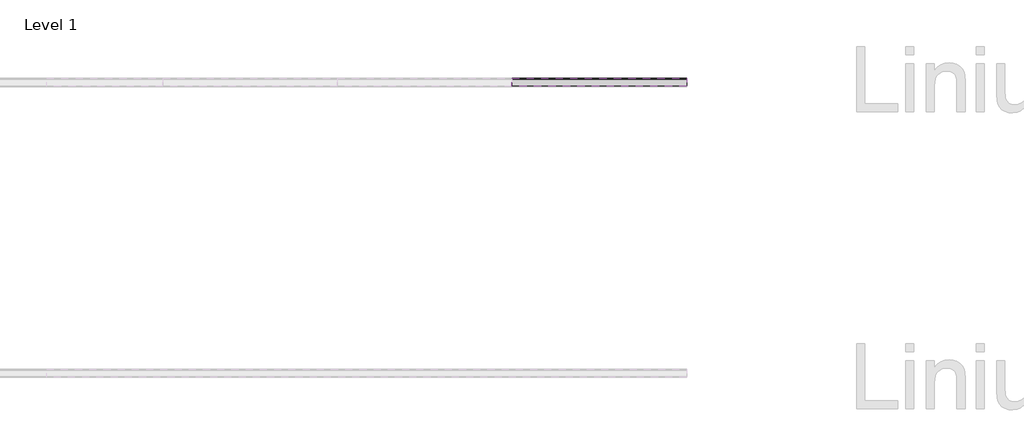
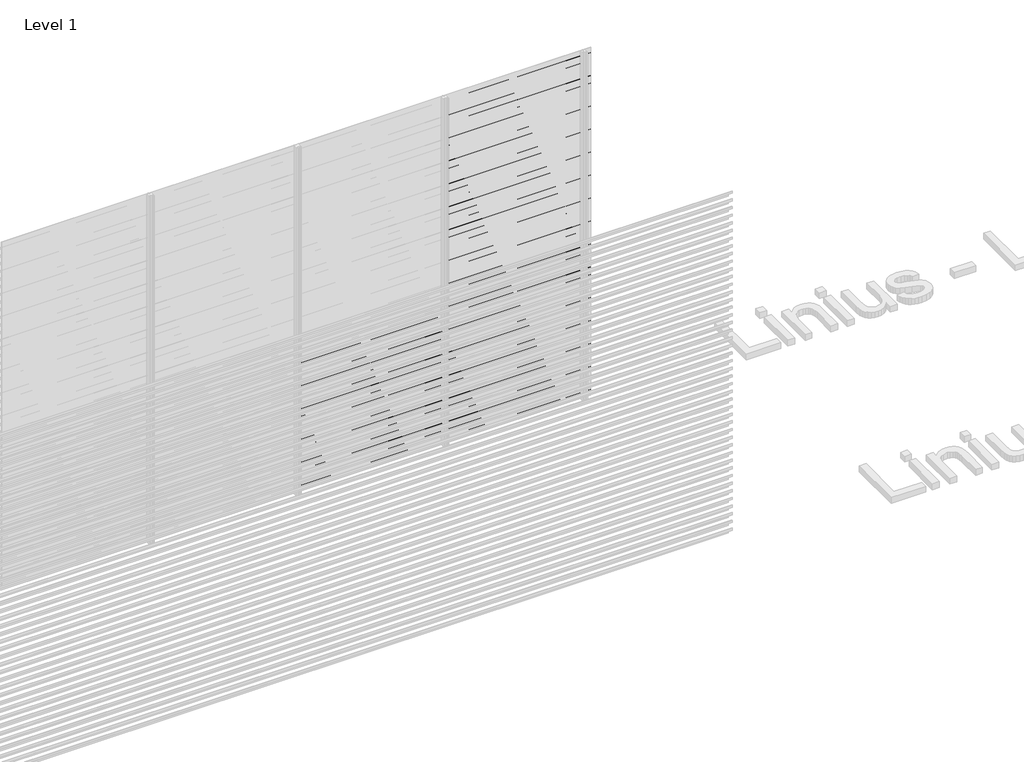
# One storey, part 88 of 540: 62 proxies.
"""IFC4 building model written with IfcOpenShell, lengths in millimetres."""

import ifcopenshell
import ifcopenshell.guid

model = None  # the IFC model being written
_history = None  # IfcOwnerHistory: only IFC2X3 demands one
_inside = {}  # id of a spatial element -> (the spatial element, [elements in it])
_under = {}  # id of a project, library or spatial element -> (it, [spatial elements below it])
_declared = {}  # id of a project -> (the project, [libraries it declares])
_typed = {}  # id of a type object -> (the type object, [elements of that type])
_made_of = {}  # id of a material, layer set ... -> (it, [elements and type objects made of it])


def new_model(schema):
    """Start an empty IFC model of exactly this schema.

    Asked for "IFC4X3", IfcOpenShell would pick the latest addendum, in which some entities
    have other attributes; the version numbers below select the first issue.
    IFC2X3 requires an IfcOwnerHistory on every rooted entity: one is made here for all.
    """
    global model, _history
    if schema == "IFC4X3":
        model = ifcopenshell.file(schema_version=(4, 3, 0, 0))
    else:
        model = ifcopenshell.file(schema=schema)
    _inside.clear()
    _under.clear()
    _declared.clear()
    _typed.clear()
    _made_of.clear()
    _history = None
    if model.schema == "IFC2X3":
        org = make("IfcOrganization", Name="unknown")
        user = make(
            "IfcPersonAndOrganization",
            ThePerson=make("IfcPerson", FamilyName="unknown"),
            TheOrganization=org,
        )
        app = make(
            "IfcApplication",
            ApplicationDeveloper=org,
            Version="unknown",
            ApplicationFullName="unknown",
            ApplicationIdentifier="unknown",
        )
        _history = make(
            "IfcOwnerHistory",
            OwningUser=user,
            OwningApplication=app,
            ChangeAction="ADDED",
            CreationDate=0,
        )
    return model


def make(cls, **values):
    """One entity of the class cls with the attributes given. An attribute that is None is left unset."""
    return model.create_entity(
        cls, **{name: value for name, value in values.items() if value is not None}
    )


def rooted(cls, **values):
    """An entity with a GlobalId (a new one), such as an element, a storey or a relation."""
    return make(cls, GlobalId=ifcopenshell.guid.new(), OwnerHistory=_history, **values)


def si_unit(unit_type, name, prefix=None):
    """IfcSIUnit, for example si_unit("LENGTHUNIT", "METRE", prefix="MILLI")."""
    return make("IfcSIUnit", UnitType=unit_type, Prefix=prefix, Name=name)


def assignment(units):
    """IfcUnitAssignment: the units of a project."""
    return None if units is None else make("IfcUnitAssignment", Units=units)


def point(xyz):
    """IfcCartesianPoint."""
    return None if xyz is None else make("IfcCartesianPoint", Coordinates=xyz)


def direction(xyz):
    """IfcDirection."""
    return None if xyz is None else make("IfcDirection", DirectionRatios=xyz)


def frame(location, z_axis=None, x_axis=None):
    """IfcAxis2Placement3D, a coordinate frame: its origin and axes. An axis left out is left unset."""
    return make(
        "IfcAxis2Placement3D",
        Location=point(location),
        Axis=direction(z_axis),
        RefDirection=direction(x_axis),
    )


def origin():
    """The frame at (0, 0, 0) with its axes left unset."""
    return frame((0.0, 0.0, 0.0))


def place(relative_to, where):
    """IfcLocalPlacement: puts the frame where relative to a parent placement (None: the world)."""
    return make(
        "IfcLocalPlacement", PlacementRelTo=relative_to, RelativePlacement=where
    )


def context(
    kind, dimensions, precision=None, world=None, true_north=None, identifier=None
):
    """IfcGeometricRepresentationContext, for example the 3D "Model" context."""
    return make(
        "IfcGeometricRepresentationContext",
        ContextIdentifier=identifier,
        ContextType=kind,
        CoordinateSpaceDimension=dimensions,
        Precision=precision,
        WorldCoordinateSystem=world,
        TrueNorth=true_north,
    )


def project(units=None, contexts=None):
    """IfcProject with its units and contexts."""
    return rooted(
        "IfcProject",
        Name="project",
        RepresentationContexts=contexts,
        UnitsInContext=assignment(units),
    )


def spatial(cls, under=None, at=None, **own):
    """A site, building, storey or space (cls), placed at a placement, below another one or the project."""
    s = rooted(cls, ObjectPlacement=at, **own)
    if under is not None:
        _under.setdefault(under.id(), (under, []))[1].append(s)
    return s


def polyline(points):
    """IfcPolyline through the points."""
    return make("IfcPolyline", Points=[point(p) for p in points])


def outline(outer, holes=None, kind="AREA"):
    """IfcArbitraryClosedProfileDef: a profile drawn as a closed curve; with holes, ...WithVoids."""
    if holes is None:
        return make("IfcArbitraryClosedProfileDef", ProfileType=kind, OuterCurve=outer)
    return make(
        "IfcArbitraryProfileDefWithVoids",
        ProfileType=kind,
        OuterCurve=outer,
        InnerCurves=holes,
    )


def extrude(swept, where, along, depth):
    """IfcExtrudedAreaSolid: the profile swept, set in the frame where, extruded along a direction by depth."""
    return make(
        "IfcExtrudedAreaSolid",
        SweptArea=swept,
        Position=where,
        ExtrudedDirection=direction(along),
        Depth=depth,
    )


def shape(context_of_items, identifier, shape_type, items):
    """IfcShapeRepresentation: the items that make up one representation, for example the "Body"."""
    return make(
        "IfcShapeRepresentation",
        ContextOfItems=context_of_items,
        RepresentationIdentifier=identifier,
        RepresentationType=shape_type,
        Items=items,
    )


def made_of(thing, what):
    """Note that an element or type object is made of a material, layer set ...; save() writes the relation."""
    if what is not None:
        _made_of.setdefault(what.id(), (what, []))[1].append(thing)
    return thing


def element(
    cls,
    number,
    at=None,
    inside=None,
    cuts=None,
    type_object=None,
    material=None,
    context=None,
    identifier="Body",
    shape_type=None,
    held_by="IfcProductDefinitionShape",
    body=None,
    shapes=None,
    **own,
):
    """One element of the class cls, such as IfcWall. Its Tag is "e" and its number.

    at: its placement. inside: the storey or other place that contains it. cuts: it is an
    opening in that element (IfcRelVoidsElement). A single representation is given by context,
    identifier, shape_type and body (its items); several are given by shapes. held_by: the class
    of the entity that holds the representations. save() writes the other relations.
    """
    e = rooted(cls, Tag="e%d" % number, ObjectPlacement=at, **own)
    if body is not None:
        shapes = [shape(context, identifier, shape_type, body)]
    if shapes is not None:
        e.Representation = make(held_by, Representations=shapes)
    if inside is not None:
        _inside.setdefault(inside.id(), (inside, []))[1].append(e)
    if cuts is not None:
        rooted(
            "IfcRelVoidsElement", RelatingBuildingElement=cuts, RelatedOpeningElement=e
        )
    if type_object is not None:
        _typed.setdefault(type_object.id(), (type_object, []))[1].append(e)
    return made_of(e, material)


def aggregate(whole, parts):
    """IfcRelAggregates: a whole, such as a stair, and the parts it consists of."""
    return rooted("IfcRelAggregates", RelatingObject=whole, RelatedObjects=parts)


def save(model, path):
    """Write the relations noted so far, then the file.

    IfcRelAggregates (storeys below a building ...), IfcRelContainedInSpatialStructure (elements
    in a storey), IfcRelDefinesByType, IfcRelAssociatesMaterial and IfcRelDeclares: one each for
    every whole, place, type object, material and project.
    """
    for whole, parts in _under.values():
        aggregate(whole, parts)
    for where, things in _inside.values():
        rooted(
            "IfcRelContainedInSpatialStructure",
            RelatedElements=things,
            RelatingStructure=where,
        )
    for kind, things in _typed.values():
        rooted("IfcRelDefinesByType", RelatedObjects=things, RelatingType=kind)
    for what, things in _made_of.values():
        rooted("IfcRelAssociatesMaterial", RelatedObjects=things, RelatingMaterial=what)
    for by, libraries in _declared.values():
        rooted("IfcRelDeclares", RelatingContext=by, RelatedDefinitions=libraries)
    model.write(path)


model = new_model("IFC4")

# Units and contexts
model_context = context("Model", 3, world=origin())
ifc_project = project(units=[si_unit("LENGTHUNIT", "METRE", prefix="MILLI")], contexts=[model_context])

# Site, building, storey
site = spatial("IfcSite", under=ifc_project)
building = spatial("IfcBuilding", under=site)
storey = spatial("IfcBuildingStorey", under=building, Name="Level 1", Elevation=0.0)

# Proxies
placement = place(None, origin())
element("IfcBuildingElementProxy", 1, Name="Wall Sweeps", at=placement, inside=storey, context=model_context, shape_type="SweptSolid", body=[
    extrude(outline(polyline([(59081.0540136, 2913.5), (59081.0540136, 2893.5), (59079.8040136, 2894.2216933), (59079.8040136, 2912.7872415), (59026.0540136, 2950.3158044), (59026.0540136, 2970.0), (59027.3040136, 2970.0), (59027.3040136, 2951.0285629), (59081.0540136, 2913.5)])), frame((5266.6208095, 0.0, 0.0), z_axis=(1.0, 0.0, 0.0), x_axis=(0.0, 1.0, 0.0)), (0.0, 0.0, 1.0), 1200.0000002),
])
element("IfcBuildingElementProxy", 2, Name="Wall Sweeps", at=placement, inside=storey, context=model_context, shape_type="SweptSolid", body=[
    extrude(outline(polyline([(59081.0540136, 2847.5), (59081.0540136, 2827.5), (59079.8040136, 2828.2216933), (59079.8040136, 2846.7872415), (59026.0540136, 2884.3158044), (59026.0540136, 2904.0), (59027.3040136, 2904.0), (59027.3040136, 2885.0285629), (59081.0540136, 2847.5)])), frame((5266.6208095, 0.0, 0.0), z_axis=(1.0, 0.0, 0.0), x_axis=(0.0, 1.0, 0.0)), (0.0, 0.0, 1.0), 1200.0000002),
])
element("IfcBuildingElementProxy", 3, Name="Wall Sweeps", at=placement, inside=storey, context=model_context, shape_type="SweptSolid", body=[
    extrude(outline(polyline([(59081.0540136, 2781.5), (59081.0540136, 2761.5), (59079.8040136, 2762.2216933), (59079.8040136, 2780.7872415), (59026.0540136, 2818.3158044), (59026.0540136, 2838.0), (59027.3040136, 2838.0), (59027.3040136, 2819.0285629), (59081.0540136, 2781.5)])), frame((5266.6208095, 0.0, 0.0), z_axis=(1.0, 0.0, 0.0), x_axis=(0.0, 1.0, 0.0)), (0.0, 0.0, 1.0), 1200.0000002),
])
element("IfcBuildingElementProxy", 4, Name="Wall Sweeps", at=placement, inside=storey, context=model_context, shape_type="SweptSolid", body=[
    extrude(outline(polyline([(59081.0540136, 2715.5), (59081.0540136, 2695.5), (59079.8040136, 2696.2216933), (59079.8040136, 2714.7872415), (59026.0540136, 2752.3158044), (59026.0540136, 2772.0), (59027.3040136, 2772.0), (59027.3040136, 2753.0285629), (59081.0540136, 2715.5)])), frame((5266.6208095, 0.0, 0.0), z_axis=(1.0, 0.0, 0.0), x_axis=(0.0, 1.0, 0.0)), (0.0, 0.0, 1.0), 1200.0000002),
])
element("IfcBuildingElementProxy", 5, Name="Wall Sweeps", at=placement, inside=storey, context=model_context, shape_type="SweptSolid", body=[
    extrude(outline(polyline([(59081.0540136, 2649.5), (59081.0540136, 2629.5), (59079.8040136, 2630.2216933), (59079.8040136, 2648.7872415), (59026.0540136, 2686.3158044), (59026.0540136, 2706.0), (59027.3040136, 2706.0), (59027.3040136, 2687.0285629), (59081.0540136, 2649.5)])), frame((5266.6208095, 0.0, 0.0), z_axis=(1.0, 0.0, 0.0), x_axis=(0.0, 1.0, 0.0)), (0.0, 0.0, 1.0), 1200.0000002),
])
element("IfcBuildingElementProxy", 6, Name="Wall Sweeps", at=placement, inside=storey, context=model_context, shape_type="SweptSolid", body=[
    extrude(outline(polyline([(59081.0540136, 2583.5), (59081.0540136, 2563.5), (59079.8040136, 2564.2216933), (59079.8040136, 2582.7872415), (59026.0540136, 2620.3158044), (59026.0540136, 2640.0), (59027.3040136, 2640.0), (59027.3040136, 2621.0285629), (59081.0540136, 2583.5)])), frame((5266.6208095, 0.0, 0.0), z_axis=(1.0, 0.0, 0.0), x_axis=(0.0, 1.0, 0.0)), (0.0, 0.0, 1.0), 1200.0000002),
])
element("IfcBuildingElementProxy", 7, Name="Wall Sweeps", at=placement, inside=storey, context=model_context, shape_type="SweptSolid", body=[
    extrude(outline(polyline([(59081.0540136, 2517.5), (59081.0540136, 2497.5), (59079.8040136, 2498.2216933), (59079.8040136, 2516.7872415), (59026.0540136, 2554.3158044), (59026.0540136, 2574.0), (59027.3040136, 2574.0), (59027.3040136, 2555.0285629), (59081.0540136, 2517.5)])), frame((5266.6208095, 0.0, 0.0), z_axis=(1.0, 0.0, 0.0), x_axis=(0.0, 1.0, 0.0)), (0.0, 0.0, 1.0), 1200.0000002),
])
element("IfcBuildingElementProxy", 8, Name="Wall Sweeps", at=placement, inside=storey, context=model_context, shape_type="SweptSolid", body=[
    extrude(outline(polyline([(59081.0540136, 2451.5), (59081.0540136, 2431.5), (59079.8040136, 2432.2216933), (59079.8040136, 2450.7872415), (59026.0540136, 2488.3158044), (59026.0540136, 2508.0), (59027.3040136, 2508.0), (59027.3040136, 2489.0285629), (59081.0540136, 2451.5)])), frame((5266.6208095, 0.0, 0.0), z_axis=(1.0, 0.0, 0.0), x_axis=(0.0, 1.0, 0.0)), (0.0, 0.0, 1.0), 1200.0000002),
])
element("IfcBuildingElementProxy", 9, Name="Wall Sweeps", at=placement, inside=storey, context=model_context, shape_type="SweptSolid", body=[
    extrude(outline(polyline([(59081.0540136, 2385.5), (59081.0540136, 2365.5), (59079.8040136, 2366.2216933), (59079.8040136, 2384.7872415), (59026.0540136, 2422.3158044), (59026.0540136, 2442.0), (59027.3040136, 2442.0), (59027.3040136, 2423.0285629), (59081.0540136, 2385.5)])), frame((5266.6208095, 0.0, 0.0), z_axis=(1.0, 0.0, 0.0), x_axis=(0.0, 1.0, 0.0)), (0.0, 0.0, 1.0), 1200.0000002),
])
element("IfcBuildingElementProxy", 10, Name="Wall Sweeps", at=placement, inside=storey, context=model_context, shape_type="SweptSolid", body=[
    extrude(outline(polyline([(59081.0540136, 2319.5), (59081.0540136, 2299.5), (59079.8040136, 2300.2216933), (59079.8040136, 2318.7872415), (59026.0540136, 2356.3158044), (59026.0540136, 2376.0), (59027.3040136, 2376.0), (59027.3040136, 2357.0285629), (59081.0540136, 2319.5)])), frame((5266.6208095, 0.0, 0.0), z_axis=(1.0, 0.0, 0.0), x_axis=(0.0, 1.0, 0.0)), (0.0, 0.0, 1.0), 1200.0000002),
])
element("IfcBuildingElementProxy", 11, Name="Wall Sweeps", at=placement, inside=storey, context=model_context, shape_type="SweptSolid", body=[
    extrude(outline(polyline([(59081.0540136, 2253.5), (59081.0540136, 2233.5), (59079.8040136, 2234.2216933), (59079.8040136, 2252.7872415), (59026.0540136, 2290.3158044), (59026.0540136, 2310.0), (59027.3040136, 2310.0), (59027.3040136, 2291.0285629), (59081.0540136, 2253.5)])), frame((5266.6208095, 0.0, 0.0), z_axis=(1.0, 0.0, 0.0), x_axis=(0.0, 1.0, 0.0)), (0.0, 0.0, 1.0), 1200.0000002),
])
element("IfcBuildingElementProxy", 12, Name="Wall Sweeps", at=placement, inside=storey, context=model_context, shape_type="SweptSolid", body=[
    extrude(outline(polyline([(59081.0540136, 2187.5), (59081.0540136, 2167.5), (59079.8040136, 2168.2216933), (59079.8040136, 2186.7872415), (59026.0540136, 2224.3158044), (59026.0540136, 2244.0), (59027.3040136, 2244.0), (59027.3040136, 2225.0285629), (59081.0540136, 2187.5)])), frame((5266.6208095, 0.0, 0.0), z_axis=(1.0, 0.0, 0.0), x_axis=(0.0, 1.0, 0.0)), (0.0, 0.0, 1.0), 1200.0000002),
])
element("IfcBuildingElementProxy", 13, Name="Wall Sweeps", at=placement, inside=storey, context=model_context, shape_type="SweptSolid", body=[
    extrude(outline(polyline([(59081.0540136, 2121.5), (59081.0540136, 2101.5), (59079.8040136, 2102.2216933), (59079.8040136, 2120.7872415), (59026.0540136, 2158.3158044), (59026.0540136, 2178.0), (59027.3040136, 2178.0), (59027.3040136, 2159.0285629), (59081.0540136, 2121.5)])), frame((5266.6208095, 0.0, 0.0), z_axis=(1.0, 0.0, 0.0), x_axis=(0.0, 1.0, 0.0)), (0.0, 0.0, 1.0), 1200.0000002),
])
element("IfcBuildingElementProxy", 14, Name="Wall Sweeps", at=placement, inside=storey, context=model_context, shape_type="SweptSolid", body=[
    extrude(outline(polyline([(59081.0540136, 2055.5), (59081.0540136, 2035.5), (59079.8040136, 2036.2216933), (59079.8040136, 2054.7872415), (59026.0540136, 2092.3158044), (59026.0540136, 2112.0), (59027.3040136, 2112.0), (59027.3040136, 2093.0285629), (59081.0540136, 2055.5)])), frame((5266.6208095, 0.0, 0.0), z_axis=(1.0, 0.0, 0.0), x_axis=(0.0, 1.0, 0.0)), (0.0, 0.0, 1.0), 1200.0000002),
])
element("IfcBuildingElementProxy", 15, Name="Wall Sweeps", at=placement, inside=storey, context=model_context, shape_type="SweptSolid", body=[
    extrude(outline(polyline([(59081.0540136, 1989.5), (59081.0540136, 1969.5), (59079.8040136, 1970.2216933), (59079.8040136, 1988.7872415), (59026.0540136, 2026.3158044), (59026.0540136, 2046.0), (59027.3040136, 2046.0), (59027.3040136, 2027.0285629), (59081.0540136, 1989.5)])), frame((5266.6208095, 0.0, 0.0), z_axis=(1.0, 0.0, 0.0), x_axis=(0.0, 1.0, 0.0)), (0.0, 0.0, 1.0), 1200.0000002),
])
element("IfcBuildingElementProxy", 16, Name="Wall Sweeps", at=placement, inside=storey, context=model_context, shape_type="SweptSolid", body=[
    extrude(outline(polyline([(59081.0540136, 1923.5), (59081.0540136, 1903.5), (59079.8040136, 1904.2216933), (59079.8040136, 1922.7872415), (59026.0540136, 1960.3158044), (59026.0540136, 1980.0), (59027.3040136, 1980.0), (59027.3040136, 1961.0285629), (59081.0540136, 1923.5)])), frame((5266.6208095, 0.0, 0.0), z_axis=(1.0, 0.0, 0.0), x_axis=(0.0, 1.0, 0.0)), (0.0, 0.0, 1.0), 1200.0000002),
])
element("IfcBuildingElementProxy", 17, Name="Wall Sweeps", at=placement, inside=storey, context=model_context, shape_type="SweptSolid", body=[
    extrude(outline(polyline([(59081.0540136, 1857.5), (59081.0540136, 1837.5), (59079.8040136, 1838.2216933), (59079.8040136, 1856.7872415), (59026.0540136, 1894.3158044), (59026.0540136, 1914.0), (59027.3040136, 1914.0), (59027.3040136, 1895.0285629), (59081.0540136, 1857.5)])), frame((5266.6208095, 0.0, 0.0), z_axis=(1.0, 0.0, 0.0), x_axis=(0.0, 1.0, 0.0)), (0.0, 0.0, 1.0), 1200.0000002),
])
element("IfcBuildingElementProxy", 18, Name="Wall Sweeps", at=placement, inside=storey, context=model_context, shape_type="SweptSolid", body=[
    extrude(outline(polyline([(59081.0540136, 1791.5), (59081.0540136, 1771.5), (59079.8040136, 1772.2216933), (59079.8040136, 1790.7872415), (59026.0540136, 1828.3158044), (59026.0540136, 1848.0), (59027.3040136, 1848.0), (59027.3040136, 1829.0285629), (59081.0540136, 1791.5)])), frame((5266.6208095, 0.0, 0.0), z_axis=(1.0, 0.0, 0.0), x_axis=(0.0, 1.0, 0.0)), (0.0, 0.0, 1.0), 1200.0000002),
])
element("IfcBuildingElementProxy", 19, Name="Wall Sweeps", at=placement, inside=storey, context=model_context, shape_type="SweptSolid", body=[
    extrude(outline(polyline([(59081.0540136, 1725.5), (59081.0540136, 1705.5), (59079.8040136, 1706.2216933), (59079.8040136, 1724.7872415), (59026.0540136, 1762.3158044), (59026.0540136, 1782.0), (59027.3040136, 1782.0), (59027.3040136, 1763.0285629), (59081.0540136, 1725.5)])), frame((5266.6208095, 0.0, 0.0), z_axis=(1.0, 0.0, 0.0), x_axis=(0.0, 1.0, 0.0)), (0.0, 0.0, 1.0), 1200.0000002),
])
element("IfcBuildingElementProxy", 20, Name="Wall Sweeps", at=placement, inside=storey, context=model_context, shape_type="SweptSolid", body=[
    extrude(outline(polyline([(59081.0540136, 1659.5), (59081.0540136, 1639.5), (59079.8040136, 1640.2216933), (59079.8040136, 1658.7872415), (59026.0540136, 1696.3158044), (59026.0540136, 1716.0), (59027.3040136, 1716.0), (59027.3040136, 1697.0285629), (59081.0540136, 1659.5)])), frame((5266.6208095, 0.0, 0.0), z_axis=(1.0, 0.0, 0.0), x_axis=(0.0, 1.0, 0.0)), (0.0, 0.0, 1.0), 1200.0000002),
])
element("IfcBuildingElementProxy", 21, Name="Wall Sweeps", at=placement, inside=storey, context=model_context, shape_type="SweptSolid", body=[
    extrude(outline(polyline([(59081.0540136, 1593.5), (59081.0540136, 1573.5), (59079.8040136, 1574.2216933), (59079.8040136, 1592.7872415), (59026.0540136, 1630.3158044), (59026.0540136, 1650.0), (59027.3040136, 1650.0), (59027.3040136, 1631.0285629), (59081.0540136, 1593.5)])), frame((5266.6208095, 0.0, 0.0), z_axis=(1.0, 0.0, 0.0), x_axis=(0.0, 1.0, 0.0)), (0.0, 0.0, 1.0), 1200.0000002),
])
element("IfcBuildingElementProxy", 22, Name="Wall Sweeps", at=placement, inside=storey, context=model_context, shape_type="SweptSolid", body=[
    extrude(outline(polyline([(59081.0540136, 1527.5), (59081.0540136, 1507.5), (59079.8040136, 1508.2216933), (59079.8040136, 1526.7872415), (59026.0540136, 1564.3158044), (59026.0540136, 1584.0), (59027.3040136, 1584.0), (59027.3040136, 1565.0285629), (59081.0540136, 1527.5)])), frame((5266.6208095, 0.0, 0.0), z_axis=(1.0, 0.0, 0.0), x_axis=(0.0, 1.0, 0.0)), (0.0, 0.0, 1.0), 1200.0000002),
])
element("IfcBuildingElementProxy", 23, Name="Wall Sweeps", at=placement, inside=storey, context=model_context, shape_type="SweptSolid", body=[
    extrude(outline(polyline([(59081.0540136, 1461.5), (59081.0540136, 1441.5), (59079.8040136, 1442.2216933), (59079.8040136, 1460.7872415), (59026.0540136, 1498.3158044), (59026.0540136, 1518.0), (59027.3040136, 1518.0), (59027.3040136, 1499.0285629), (59081.0540136, 1461.5)])), frame((5266.6208095, 0.0, 0.0), z_axis=(1.0, 0.0, 0.0), x_axis=(0.0, 1.0, 0.0)), (0.0, 0.0, 1.0), 1200.0000002),
])
element("IfcBuildingElementProxy", 24, Name="Wall Sweeps", at=placement, inside=storey, context=model_context, shape_type="SweptSolid", body=[
    extrude(outline(polyline([(59081.0540136, 1395.5), (59081.0540136, 1375.5), (59079.8040136, 1376.2216933), (59079.8040136, 1394.7872415), (59026.0540136, 1432.3158044), (59026.0540136, 1452.0), (59027.3040136, 1452.0), (59027.3040136, 1433.0285629), (59081.0540136, 1395.5)])), frame((5266.6208095, 0.0, 0.0), z_axis=(1.0, 0.0, 0.0), x_axis=(0.0, 1.0, 0.0)), (0.0, 0.0, 1.0), 1200.0000002),
])
element("IfcBuildingElementProxy", 25, Name="Wall Sweeps", at=placement, inside=storey, context=model_context, shape_type="SweptSolid", body=[
    extrude(outline(polyline([(59081.0540136, 1329.5), (59081.0540136, 1309.5), (59079.8040136, 1310.2216933), (59079.8040136, 1328.7872415), (59026.0540136, 1366.3158044), (59026.0540136, 1386.0), (59027.3040136, 1386.0), (59027.3040136, 1367.0285629), (59081.0540136, 1329.5)])), frame((5266.6208095, 0.0, 0.0), z_axis=(1.0, 0.0, 0.0), x_axis=(0.0, 1.0, 0.0)), (0.0, 0.0, 1.0), 1200.0000002),
])
element("IfcBuildingElementProxy", 26, Name="Wall Sweeps", at=placement, inside=storey, context=model_context, shape_type="SweptSolid", body=[
    extrude(outline(polyline([(59081.0540136, 1263.5), (59081.0540136, 1243.5), (59079.8040136, 1244.2216933), (59079.8040136, 1262.7872415), (59026.0540136, 1300.3158044), (59026.0540136, 1320.0), (59027.3040136, 1320.0), (59027.3040136, 1301.0285629), (59081.0540136, 1263.5)])), frame((5266.6208095, 0.0, 0.0), z_axis=(1.0, 0.0, 0.0), x_axis=(0.0, 1.0, 0.0)), (0.0, 0.0, 1.0), 1200.0000002),
])
element("IfcBuildingElementProxy", 27, Name="Wall Sweeps", at=placement, inside=storey, context=model_context, shape_type="SweptSolid", body=[
    extrude(outline(polyline([(59081.0540136, 1197.5), (59081.0540136, 1177.5), (59079.8040136, 1178.2216933), (59079.8040136, 1196.7872415), (59026.0540136, 1234.3158044), (59026.0540136, 1254.0), (59027.3040136, 1254.0), (59027.3040136, 1235.0285629), (59081.0540136, 1197.5)])), frame((5266.6208095, 0.0, 0.0), z_axis=(1.0, 0.0, 0.0), x_axis=(0.0, 1.0, 0.0)), (0.0, 0.0, 1.0), 1200.0000002),
])
element("IfcBuildingElementProxy", 28, Name="Wall Sweeps", at=placement, inside=storey, context=model_context, shape_type="SweptSolid", body=[
    extrude(outline(polyline([(59081.0540136, 1131.5), (59081.0540136, 1111.5), (59079.8040136, 1112.2216933), (59079.8040136, 1130.7872415), (59026.0540136, 1168.3158044), (59026.0540136, 1188.0), (59027.3040136, 1188.0), (59027.3040136, 1169.0285629), (59081.0540136, 1131.5)])), frame((5266.6208095, 0.0, 0.0), z_axis=(1.0, 0.0, 0.0), x_axis=(0.0, 1.0, 0.0)), (0.0, 0.0, 1.0), 1200.0000002),
])
element("IfcBuildingElementProxy", 29, Name="Wall Sweeps", at=placement, inside=storey, context=model_context, shape_type="SweptSolid", body=[
    extrude(outline(polyline([(59081.0540136, 1065.5), (59081.0540136, 1045.5), (59079.8040136, 1046.2216933), (59079.8040136, 1064.7872415), (59026.0540136, 1102.3158044), (59026.0540136, 1122.0), (59027.3040136, 1122.0), (59027.3040136, 1103.0285629), (59081.0540136, 1065.5)])), frame((5266.6208095, 0.0, 0.0), z_axis=(1.0, 0.0, 0.0), x_axis=(0.0, 1.0, 0.0)), (0.0, 0.0, 1.0), 1200.0000002),
])
element("IfcBuildingElementProxy", 30, Name="Wall Sweeps", at=placement, inside=storey, context=model_context, shape_type="SweptSolid", body=[
    extrude(outline(polyline([(59081.0540136, 999.5), (59081.0540136, 979.5), (59079.8040136, 980.2216933), (59079.8040136, 998.7872415), (59026.0540136, 1036.3158044), (59026.0540136, 1056.0), (59027.3040136, 1056.0), (59027.3040136, 1037.0285629), (59081.0540136, 999.5)])), frame((5266.6208095, 0.0, 0.0), z_axis=(1.0, 0.0, 0.0), x_axis=(0.0, 1.0, 0.0)), (0.0, 0.0, 1.0), 1200.0000002),
])
element("IfcBuildingElementProxy", 31, Name="Wall Sweeps", at=placement, inside=storey, context=model_context, shape_type="SweptSolid", body=[
    extrude(outline(polyline([(59081.0540136, 933.5), (59081.0540136, 913.5), (59079.8040136, 914.2216933), (59079.8040136, 932.7872415), (59026.0540136, 970.3158044), (59026.0540136, 990.0), (59027.3040136, 990.0), (59027.3040136, 971.0285629), (59081.0540136, 933.5)])), frame((5266.6208095, 0.0, 0.0), z_axis=(1.0, 0.0, 0.0), x_axis=(0.0, 1.0, 0.0)), (0.0, 0.0, 1.0), 1200.0000002),
])
element("IfcBuildingElementProxy", 32, Name="Wall Sweeps", at=placement, inside=storey, context=model_context, shape_type="SweptSolid", body=[
    extrude(outline(polyline([(59081.0540136, 867.5), (59081.0540136, 847.5), (59079.8040136, 848.2216933), (59079.8040136, 866.7872415), (59026.0540136, 904.3158044), (59026.0540136, 924.0), (59027.3040136, 924.0), (59027.3040136, 905.0285629), (59081.0540136, 867.5)])), frame((5266.6208095, 0.0, 0.0), z_axis=(1.0, 0.0, 0.0), x_axis=(0.0, 1.0, 0.0)), (0.0, 0.0, 1.0), 1200.0000002),
])
element("IfcBuildingElementProxy", 33, Name="Wall Sweeps", at=placement, inside=storey, context=model_context, shape_type="SweptSolid", body=[
    extrude(outline(polyline([(59081.0540136, 801.5), (59081.0540136, 781.5), (59079.8040136, 782.2216933), (59079.8040136, 800.7872415), (59026.0540136, 838.3158044), (59026.0540136, 858.0), (59027.3040136, 858.0), (59027.3040136, 839.0285629), (59081.0540136, 801.5)])), frame((5266.6208095, 0.0, 0.0), z_axis=(1.0, 0.0, 0.0), x_axis=(0.0, 1.0, 0.0)), (0.0, 0.0, 1.0), 1200.0000002),
])
element("IfcBuildingElementProxy", 34, Name="Wall Sweeps", at=placement, inside=storey, context=model_context, shape_type="SweptSolid", body=[
    extrude(outline(polyline([(59081.0540136, 735.5), (59081.0540136, 715.5), (59079.8040136, 716.2216933), (59079.8040136, 734.7872415), (59026.0540136, 772.3158044), (59026.0540136, 792.0), (59027.3040136, 792.0), (59027.3040136, 773.0285629), (59081.0540136, 735.5)])), frame((5266.6208095, 0.0, 0.0), z_axis=(1.0, 0.0, 0.0), x_axis=(0.0, 1.0, 0.0)), (0.0, 0.0, 1.0), 1200.0000002),
])
element("IfcBuildingElementProxy", 35, Name="Wall Sweeps", at=placement, inside=storey, context=model_context, shape_type="SweptSolid", body=[
    extrude(outline(polyline([(59081.0540136, 669.5), (59081.0540136, 649.5), (59079.8040136, 650.2216933), (59079.8040136, 668.7872415), (59026.0540136, 706.3158044), (59026.0540136, 726.0), (59027.3040136, 726.0), (59027.3040136, 707.0285629), (59081.0540136, 669.5)])), frame((5266.6208095, 0.0, 0.0), z_axis=(1.0, 0.0, 0.0), x_axis=(0.0, 1.0, 0.0)), (0.0, 0.0, 1.0), 1200.0000002),
])
element("IfcBuildingElementProxy", 36, Name="Wall Sweeps", at=placement, inside=storey, context=model_context, shape_type="SweptSolid", body=[
    extrude(outline(polyline([(59081.0540136, 603.5), (59081.0540136, 583.5), (59079.8040136, 584.2216933), (59079.8040136, 602.7872415), (59026.0540136, 640.3158044), (59026.0540136, 660.0), (59027.3040136, 660.0), (59027.3040136, 641.0285629), (59081.0540136, 603.5)])), frame((5266.6208095, 0.0, 0.0), z_axis=(1.0, 0.0, 0.0), x_axis=(0.0, 1.0, 0.0)), (0.0, 0.0, 1.0), 1200.0000002),
])
element("IfcBuildingElementProxy", 37, Name="Wall Sweeps", at=placement, inside=storey, context=model_context, shape_type="SweptSolid", body=[
    extrude(outline(polyline([(59081.0540136, 537.5), (59081.0540136, 517.5), (59079.8040136, 518.2216933), (59079.8040136, 536.7872415), (59026.0540136, 574.3158044), (59026.0540136, 594.0), (59027.3040136, 594.0), (59027.3040136, 575.0285629), (59081.0540136, 537.5)])), frame((5266.6208095, 0.0, 0.0), z_axis=(1.0, 0.0, 0.0), x_axis=(0.0, 1.0, 0.0)), (0.0, 0.0, 1.0), 1200.0000002),
])
element("IfcBuildingElementProxy", 38, Name="Wall Sweeps", at=placement, inside=storey, context=model_context, shape_type="SweptSolid", body=[
    extrude(outline(polyline([(59081.0540136, 471.5), (59081.0540136, 451.5), (59079.8040136, 452.2216933), (59079.8040136, 470.7872415), (59026.0540136, 508.3158044), (59026.0540136, 528.0), (59027.3040136, 528.0), (59027.3040136, 509.0285629), (59081.0540136, 471.5)])), frame((5266.6208095, 0.0, 0.0), z_axis=(1.0, 0.0, 0.0), x_axis=(0.0, 1.0, 0.0)), (0.0, 0.0, 1.0), 1200.0000002),
])
element("IfcBuildingElementProxy", 39, Name="Wall Sweeps", at=placement, inside=storey, context=model_context, shape_type="SweptSolid", body=[
    extrude(outline(polyline([(59081.0540136, 405.5), (59081.0540136, 385.5), (59079.8040136, 386.2216933), (59079.8040136, 404.7872415), (59026.0540136, 442.3158044), (59026.0540136, 462.0), (59027.3040136, 462.0), (59027.3040136, 443.0285629), (59081.0540136, 405.5)])), frame((5266.6208095, 0.0, 0.0), z_axis=(1.0, 0.0, 0.0), x_axis=(0.0, 1.0, 0.0)), (0.0, 0.0, 1.0), 1200.0000002),
])
element("IfcBuildingElementProxy", 40, Name="Wall Sweeps", at=placement, inside=storey, context=model_context, shape_type="SweptSolid", body=[
    extrude(outline(polyline([(59081.0540136, 339.5), (59081.0540136, 319.5), (59079.8040136, 320.2216933), (59079.8040136, 338.7872415), (59026.0540136, 376.3158044), (59026.0540136, 396.0), (59027.3040136, 396.0), (59027.3040136, 377.0285629), (59081.0540136, 339.5)])), frame((5266.6208095, 0.0, 0.0), z_axis=(1.0, 0.0, 0.0), x_axis=(0.0, 1.0, 0.0)), (0.0, 0.0, 1.0), 1200.0000002),
])
element("IfcBuildingElementProxy", 41, Name="Wall Sweeps", at=placement, inside=storey, context=model_context, shape_type="SweptSolid", body=[
    extrude(outline(polyline([(59081.0540136, 273.5), (59081.0540136, 253.5), (59079.8040136, 254.2216933), (59079.8040136, 272.7872415), (59026.0540136, 310.3158044), (59026.0540136, 330.0), (59027.3040136, 330.0), (59027.3040136, 311.0285629), (59081.0540136, 273.5)])), frame((5266.6208095, 0.0, 0.0), z_axis=(1.0, 0.0, 0.0), x_axis=(0.0, 1.0, 0.0)), (0.0, 0.0, 1.0), 1200.0000002),
])
element("IfcBuildingElementProxy", 42, Name="Wall Sweeps", at=placement, inside=storey, context=model_context, shape_type="SweptSolid", body=[
    extrude(outline(polyline([(59081.0540136, 207.5), (59081.0540136, 187.5), (59079.8040136, 188.2216933), (59079.8040136, 206.7872415), (59026.0540136, 244.3158044), (59026.0540136, 264.0), (59027.3040136, 264.0), (59027.3040136, 245.0285629), (59081.0540136, 207.5)])), frame((5266.6208095, 0.0, 0.0), z_axis=(1.0, 0.0, 0.0), x_axis=(0.0, 1.0, 0.0)), (0.0, 0.0, 1.0), 1200.0000002),
])
element("IfcBuildingElementProxy", 43, Name="Wall Sweeps", at=placement, inside=storey, context=model_context, shape_type="SweptSolid", body=[
    extrude(outline(polyline([(59081.0540136, 141.5), (59081.0540136, 121.5), (59079.8040136, 122.2216933), (59079.8040136, 140.7872415), (59026.0540136, 178.3158044), (59026.0540136, 198.0), (59027.3040136, 198.0), (59027.3040136, 179.0285629), (59081.0540136, 141.5)])), frame((5266.6208095, 0.0, 0.0), z_axis=(1.0, 0.0, 0.0), x_axis=(0.0, 1.0, 0.0)), (0.0, 0.0, 1.0), 1200.0000002),
])
element("IfcBuildingElementProxy", 44, Name="Wall Sweeps", at=placement, inside=storey, context=model_context, shape_type="SweptSolid", body=[
    extrude(outline(polyline([(59081.0540136, 75.5), (59081.0540136, 55.5), (59079.8040136, 56.2216933), (59079.8040136, 74.7872415), (59026.0540136, 112.3158044), (59026.0540136, 132.0), (59027.3040136, 132.0), (59027.3040136, 113.0285629), (59081.0540136, 75.5)])), frame((5266.6208095, 0.0, 0.0), z_axis=(1.0, 0.0, 0.0), x_axis=(0.0, 1.0, 0.0)), (0.0, 0.0, 1.0), 1200.0000002),
])
element("IfcBuildingElementProxy", 45, Name="Wall Sweeps", at=placement, inside=storey, context=model_context, shape_type="SweptSolid", body=[
    extrude(outline(polyline([(59081.0540136, 9.5), (59081.0540136, -10.5), (59079.8040136, -9.7783067), (59079.8040136, 8.7872415), (59026.0540136, 46.3158044), (59026.0540136, 66.0), (59027.3040136, 66.0), (59027.3040136, 47.0285629), (59081.0540136, 9.5)])), frame((5266.6208095, 0.0, 0.0), z_axis=(1.0, 0.0, 0.0), x_axis=(0.0, 1.0, 0.0)), (0.0, 0.0, 1.0), 1200.0000002),
])
element("IfcBuildingElementProxy", 46, Name="Wall Sweeps", at=placement, inside=storey, context=model_context, shape_type="SweptSolid", body=[
    extrude(outline(polyline([(59081.0540136, 1065.5), (59081.0540136, 1045.5), (59079.8040136, 1046.2216933), (59079.8040136, 1064.7872415), (59026.0540136, 1102.3158044), (59026.0540136, 1122.0), (59027.3040136, 1122.0), (59027.3040136, 1103.0285629), (59081.0540136, 1065.5)])), frame((4066.6208096, 0.0, 0.0), z_axis=(1.0, 0.0, 0.0), x_axis=(0.0, 1.0, 0.0)), (0.0, 0.0, 1.0), 1199.9999999),
])
element("IfcBuildingElementProxy", 47, Name="Wall Sweeps", at=placement, inside=storey, context=model_context, shape_type="SweptSolid", body=[
    extrude(outline(polyline([(59081.0540136, 999.5), (59081.0540136, 979.5), (59079.8040136, 980.2216933), (59079.8040136, 998.7872415), (59026.0540136, 1036.3158044), (59026.0540136, 1056.0), (59027.3040136, 1056.0), (59027.3040136, 1037.0285629), (59081.0540136, 999.5)])), frame((4066.6208096, 0.0, 0.0), z_axis=(1.0, 0.0, 0.0), x_axis=(0.0, 1.0, 0.0)), (0.0, 0.0, 1.0), 1199.9999999),
])
element("IfcBuildingElementProxy", 48, Name="Wall Sweeps", at=placement, inside=storey, context=model_context, shape_type="SweptSolid", body=[
    extrude(outline(polyline([(59081.0540136, 933.5), (59081.0540136, 913.5), (59079.8040136, 914.2216933), (59079.8040136, 932.7872415), (59026.0540136, 970.3158044), (59026.0540136, 990.0), (59027.3040136, 990.0), (59027.3040136, 971.0285629), (59081.0540136, 933.5)])), frame((4066.6208096, 0.0, 0.0), z_axis=(1.0, 0.0, 0.0), x_axis=(0.0, 1.0, 0.0)), (0.0, 0.0, 1.0), 1199.9999999),
])
element("IfcBuildingElementProxy", 49, Name="Wall Sweeps", at=placement, inside=storey, context=model_context, shape_type="SweptSolid", body=[
    extrude(outline(polyline([(59081.0540136, 867.5), (59081.0540136, 847.5), (59079.8040136, 848.2216933), (59079.8040136, 866.7872415), (59026.0540136, 904.3158044), (59026.0540136, 924.0), (59027.3040136, 924.0), (59027.3040136, 905.0285629), (59081.0540136, 867.5)])), frame((4066.6208096, 0.0, 0.0), z_axis=(1.0, 0.0, 0.0), x_axis=(0.0, 1.0, 0.0)), (0.0, 0.0, 1.0), 1199.9999999),
])
element("IfcBuildingElementProxy", 50, Name="Wall Sweeps", at=placement, inside=storey, context=model_context, shape_type="SweptSolid", body=[
    extrude(outline(polyline([(59081.0540136, 801.5), (59081.0540136, 781.5), (59079.8040136, 782.2216933), (59079.8040136, 800.7872415), (59026.0540136, 838.3158044), (59026.0540136, 858.0), (59027.3040136, 858.0), (59027.3040136, 839.0285629), (59081.0540136, 801.5)])), frame((4066.6208096, 0.0, 0.0), z_axis=(1.0, 0.0, 0.0), x_axis=(0.0, 1.0, 0.0)), (0.0, 0.0, 1.0), 1199.9999999),
])
element("IfcBuildingElementProxy", 51, Name="Wall Sweeps", at=placement, inside=storey, context=model_context, shape_type="SweptSolid", body=[
    extrude(outline(polyline([(59081.0540136, 735.5), (59081.0540136, 715.5), (59079.8040136, 716.2216933), (59079.8040136, 734.7872415), (59026.0540136, 772.3158044), (59026.0540136, 792.0), (59027.3040136, 792.0), (59027.3040136, 773.0285629), (59081.0540136, 735.5)])), frame((4066.6208096, 0.0, 0.0), z_axis=(1.0, 0.0, 0.0), x_axis=(0.0, 1.0, 0.0)), (0.0, 0.0, 1.0), 1199.9999999),
])
element("IfcBuildingElementProxy", 52, Name="Wall Sweeps", at=placement, inside=storey, context=model_context, shape_type="SweptSolid", body=[
    extrude(outline(polyline([(59081.0540136, 669.5), (59081.0540136, 649.5), (59079.8040136, 650.2216933), (59079.8040136, 668.7872415), (59026.0540136, 706.3158044), (59026.0540136, 726.0), (59027.3040136, 726.0), (59027.3040136, 707.0285629), (59081.0540136, 669.5)])), frame((4066.6208096, 0.0, 0.0), z_axis=(1.0, 0.0, 0.0), x_axis=(0.0, 1.0, 0.0)), (0.0, 0.0, 1.0), 1199.9999999),
])
element("IfcBuildingElementProxy", 53, Name="Wall Sweeps", at=placement, inside=storey, context=model_context, shape_type="SweptSolid", body=[
    extrude(outline(polyline([(59081.0540136, 603.5), (59081.0540136, 583.5), (59079.8040136, 584.2216933), (59079.8040136, 602.7872415), (59026.0540136, 640.3158044), (59026.0540136, 660.0), (59027.3040136, 660.0), (59027.3040136, 641.0285629), (59081.0540136, 603.5)])), frame((4066.6208096, 0.0, 0.0), z_axis=(1.0, 0.0, 0.0), x_axis=(0.0, 1.0, 0.0)), (0.0, 0.0, 1.0), 1199.9999999),
])
element("IfcBuildingElementProxy", 54, Name="Wall Sweeps", at=placement, inside=storey, context=model_context, shape_type="SweptSolid", body=[
    extrude(outline(polyline([(59081.0540136, 537.5), (59081.0540136, 517.5), (59079.8040136, 518.2216933), (59079.8040136, 536.7872415), (59026.0540136, 574.3158044), (59026.0540136, 594.0), (59027.3040136, 594.0), (59027.3040136, 575.0285629), (59081.0540136, 537.5)])), frame((4066.6208096, 0.0, 0.0), z_axis=(1.0, 0.0, 0.0), x_axis=(0.0, 1.0, 0.0)), (0.0, 0.0, 1.0), 1199.9999999),
])
element("IfcBuildingElementProxy", 55, Name="Wall Sweeps", at=placement, inside=storey, context=model_context, shape_type="SweptSolid", body=[
    extrude(outline(polyline([(59081.0540136, 471.5), (59081.0540136, 451.5), (59079.8040136, 452.2216933), (59079.8040136, 470.7872415), (59026.0540136, 508.3158044), (59026.0540136, 528.0), (59027.3040136, 528.0), (59027.3040136, 509.0285629), (59081.0540136, 471.5)])), frame((4066.6208096, 0.0, 0.0), z_axis=(1.0, 0.0, 0.0), x_axis=(0.0, 1.0, 0.0)), (0.0, 0.0, 1.0), 1199.9999999),
])
element("IfcBuildingElementProxy", 56, Name="Wall Sweeps", at=placement, inside=storey, context=model_context, shape_type="SweptSolid", body=[
    extrude(outline(polyline([(59081.0540136, 405.5), (59081.0540136, 385.5), (59079.8040136, 386.2216933), (59079.8040136, 404.7872415), (59026.0540136, 442.3158044), (59026.0540136, 462.0), (59027.3040136, 462.0), (59027.3040136, 443.0285629), (59081.0540136, 405.5)])), frame((4066.6208096, 0.0, 0.0), z_axis=(1.0, 0.0, 0.0), x_axis=(0.0, 1.0, 0.0)), (0.0, 0.0, 1.0), 1199.9999999),
])
element("IfcBuildingElementProxy", 57, Name="Wall Sweeps", at=placement, inside=storey, context=model_context, shape_type="SweptSolid", body=[
    extrude(outline(polyline([(59081.0540136, 339.5), (59081.0540136, 319.5), (59079.8040136, 320.2216933), (59079.8040136, 338.7872415), (59026.0540136, 376.3158044), (59026.0540136, 396.0), (59027.3040136, 396.0), (59027.3040136, 377.0285629), (59081.0540136, 339.5)])), frame((4066.6208096, 0.0, 0.0), z_axis=(1.0, 0.0, 0.0), x_axis=(0.0, 1.0, 0.0)), (0.0, 0.0, 1.0), 1199.9999999),
])
element("IfcBuildingElementProxy", 58, Name="Wall Sweeps", at=placement, inside=storey, context=model_context, shape_type="SweptSolid", body=[
    extrude(outline(polyline([(59081.0540136, 273.5), (59081.0540136, 253.5), (59079.8040136, 254.2216933), (59079.8040136, 272.7872415), (59026.0540136, 310.3158044), (59026.0540136, 330.0), (59027.3040136, 330.0), (59027.3040136, 311.0285629), (59081.0540136, 273.5)])), frame((4066.6208096, 0.0, 0.0), z_axis=(1.0, 0.0, 0.0), x_axis=(0.0, 1.0, 0.0)), (0.0, 0.0, 1.0), 1199.9999999),
])
element("IfcBuildingElementProxy", 59, Name="Wall Sweeps", at=placement, inside=storey, context=model_context, shape_type="SweptSolid", body=[
    extrude(outline(polyline([(59081.0540136, 207.5), (59081.0540136, 187.5), (59079.8040136, 188.2216933), (59079.8040136, 206.7872415), (59026.0540136, 244.3158044), (59026.0540136, 264.0), (59027.3040136, 264.0), (59027.3040136, 245.0285629), (59081.0540136, 207.5)])), frame((4066.6208096, 0.0, 0.0), z_axis=(1.0, 0.0, 0.0), x_axis=(0.0, 1.0, 0.0)), (0.0, 0.0, 1.0), 1199.9999999),
])
element("IfcBuildingElementProxy", 60, Name="Wall Sweeps", at=placement, inside=storey, context=model_context, shape_type="SweptSolid", body=[
    extrude(outline(polyline([(59081.0540136, 141.5), (59081.0540136, 121.5), (59079.8040136, 122.2216933), (59079.8040136, 140.7872415), (59026.0540136, 178.3158044), (59026.0540136, 198.0), (59027.3040136, 198.0), (59027.3040136, 179.0285629), (59081.0540136, 141.5)])), frame((4066.6208096, 0.0, 0.0), z_axis=(1.0, 0.0, 0.0), x_axis=(0.0, 1.0, 0.0)), (0.0, 0.0, 1.0), 1199.9999999),
])
element("IfcBuildingElementProxy", 61, Name="Wall Sweeps", at=placement, inside=storey, context=model_context, shape_type="SweptSolid", body=[
    extrude(outline(polyline([(59081.0540136, 75.5), (59081.0540136, 55.5), (59079.8040136, 56.2216933), (59079.8040136, 74.7872415), (59026.0540136, 112.3158044), (59026.0540136, 132.0), (59027.3040136, 132.0), (59027.3040136, 113.0285629), (59081.0540136, 75.5)])), frame((4066.6208096, 0.0, 0.0), z_axis=(1.0, 0.0, 0.0), x_axis=(0.0, 1.0, 0.0)), (0.0, 0.0, 1.0), 1199.9999999),
])
element("IfcBuildingElementProxy", 62, Name="Wall Sweeps", at=placement, inside=storey, context=model_context, shape_type="SweptSolid", body=[
    extrude(outline(polyline([(59081.0540136, 9.5), (59081.0540136, -10.5), (59079.8040136, -9.7783067), (59079.8040136, 8.7872415), (59026.0540136, 46.3158044), (59026.0540136, 66.0), (59027.3040136, 66.0), (59027.3040136, 47.0285629), (59081.0540136, 9.5)])), frame((4066.6208096, 0.0, 0.0), z_axis=(1.0, 0.0, 0.0), x_axis=(0.0, 1.0, 0.0)), (0.0, 0.0, 1.0), 1199.9999999),
])

save(model, "model.ifc")
